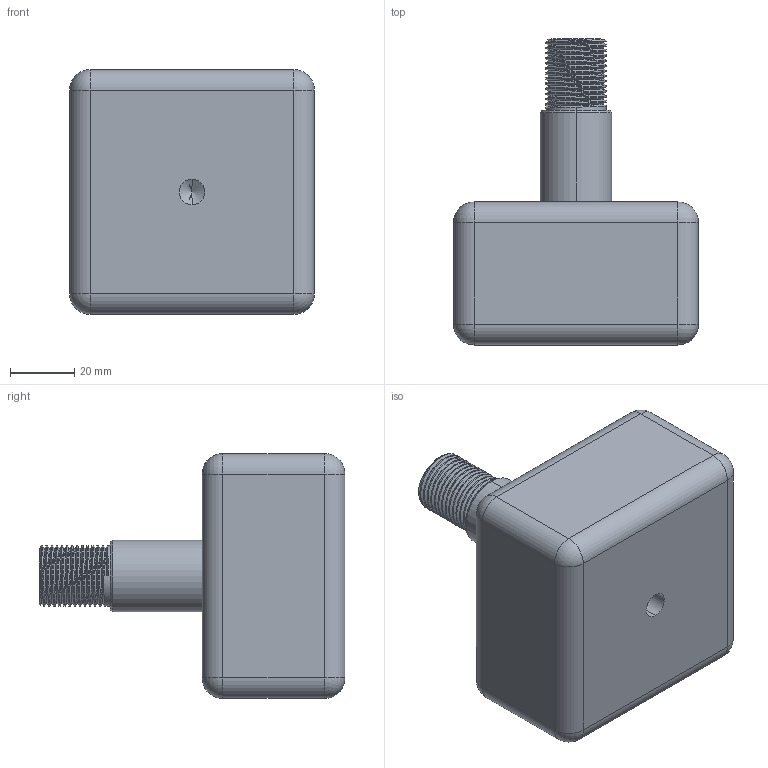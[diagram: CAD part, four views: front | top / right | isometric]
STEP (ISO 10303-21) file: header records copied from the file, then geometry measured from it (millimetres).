
FILE_DESCRIPTION (( 'STEP AP214' ), '1' );
FILE_NAME ('IRL-ASM-1.STEP', '2016-07-21T21:32:10', ( '' ), ( '' ), 'SwSTEP 2.0', 'SolidWorks 2016', '' );
FILE_SCHEMA (( 'AUTOMOTIVE_DESIGN' ));
Length unit declared in the file: inch
Products named in the file (1): IRL-ASM-1
Bounding box: 76.2 x 95.25 x 76.2 mm (x, y, z)
Volume: 267276.2 mm3; surface area: 27526.7 mm2
Topology: 1 solids, 1 shells, 70 faces, 177 edges, 102 vertices
Faces by surface type: cylinder 43, plane 9, sphere 8, cone 7, bspline 3
Entity records: 4225 total; most frequent: CARTESIAN_POINT 2638, ORIENTED_EDGE 334, DIRECTION 281, EDGE_CURVE 167, AXIS2_PLACEMENT_3D 108, VERTEX_POINT 102, EDGE_LOOP 73, FACE_OUTER_BOUND 70
